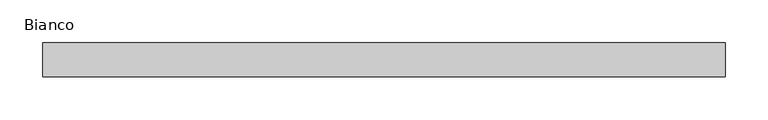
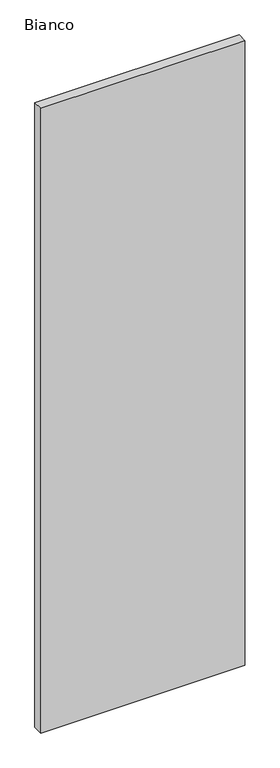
"""IFC4 building model written with IfcOpenShell, lengths in millimetres: plate geometry, Lod 200 Regolare 800 Vertical : Bianco."""

from ifc_helpers import new_model, si_unit, origin, origin_with_axes, place, context, project, spatial, polyline, outline, extrude, source, transform, mapped, element, save


def bianco_b597e378(model_context):
    return source(origin(), model_context, "Body", "SweptSolid", [
        extrude(outline(polyline([(400.0, 40.0), (400.0, 0.0), (-400.0, 0.0), (-400.0, 40.0), (400.0, 40.0)])), origin_with_axes(), (0.0, 0.0, 1.0), 2588.190451),
    ])


if __name__ == "__main__":
    model = new_model("IFC4")
    model_context = context("Model", 3, world=origin())
    ifc_project = project(units=[si_unit("LENGTHUNIT", "METRE", prefix="MILLI")], contexts=[model_context])
    site = spatial("IfcSite", under=ifc_project)
    building = spatial("IfcBuilding", under=site)
    placement = place(None, origin())
    bianco_shape = bianco_b597e378(model_context)
    element("IfcPlate", 1, ObjectType="Lod 200 Regolare 800 Vertical : Bianco", at=placement, inside=building, context=model_context, shape_type="MappedRepresentation", body=[
        mapped(bianco_shape, transform((0.0, 0.0, 0.0), x_axis=(1.0, 0.0, 0.0), y_axis=(0.0, 1.0, 0.0), z_axis=(0.0, 0.0, 1.0))),
    ])
    save(model, "model.ifc")
